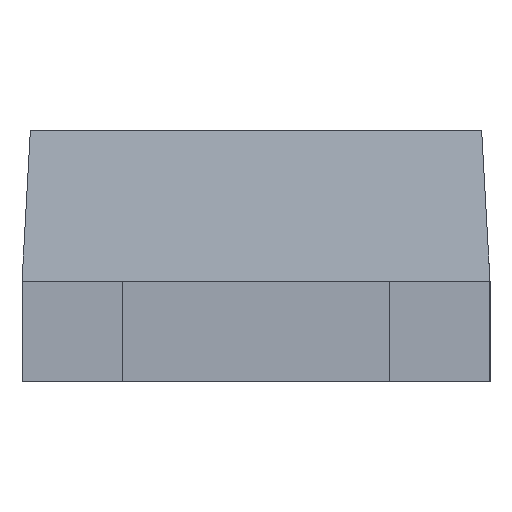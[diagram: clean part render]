
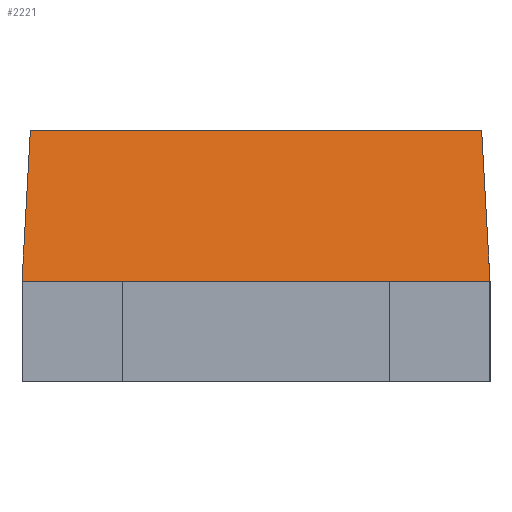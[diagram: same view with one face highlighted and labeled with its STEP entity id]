
A CAD part, left-side view. The second image highlights one B-rep face of the part: STEP entity #2221.
In plain terms, the highlighted planar face has unit normal (-0.986, 0, 0.164).
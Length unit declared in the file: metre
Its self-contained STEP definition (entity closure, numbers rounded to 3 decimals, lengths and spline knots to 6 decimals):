
#359=ORIENTED_EDGE('',*,*,#947,.T.);
#360=ORIENTED_EDGE('',*,*,#949,.F.);
#361=ORIENTED_EDGE('',*,*,#939,.F.);
#362=ORIENTED_EDGE('',*,*,#927,.T.);
#363=ORIENTED_EDGE('',*,*,#950,.T.);
#364=ORIENTED_EDGE('',*,*,#929,.T.);
#927=EDGE_CURVE('',#1237,#1236,#1450,.T.);
#929=EDGE_CURVE('',#1238,#1197,#1452,.T.);
#939=EDGE_CURVE('',#1237,#1243,#1462,.T.);
#947=EDGE_CURVE('',#1197,#1249,#1470,.T.);
#949=EDGE_CURVE('',#1243,#1249,#1472,.T.);
#950=EDGE_CURVE('',#1236,#1238,#1473,.T.);
#1197=VERTEX_POINT('',#3035);
#1236=VERTEX_POINT('',#3133);
#1237=VERTEX_POINT('',#3135);
#1238=VERTEX_POINT('',#3139);
#1243=VERTEX_POINT('',#3156);
#1249=VERTEX_POINT('',#3173);
#1450=LINE('',#3134,#1687);
#1452=LINE('',#3138,#1689);
#1462=LINE('',#3158,#1699);
#1470=LINE('',#3174,#1707);
#1472=LINE('',#3177,#1709);
#1473=LINE('',#3178,#1710);
#1687=VECTOR('',#2600,1.);
#1689=VECTOR('',#2604,1.);
#1699=VECTOR('',#2622,1.);
#1707=VECTOR('',#2634,1.);
#1709=VECTOR('',#2638,1.);
#1710=VECTOR('',#2639,1.);
#1869=EDGE_LOOP('',(#359,#360,#361,#362,#363,#364));
#2002=FACE_BOUND('',#1869,.T.);
#2132=PLANE('',#2399);
#2221=ADVANCED_FACE('',(#2002),#2132,.T.);
#2399=AXIS2_PLACEMENT_3D('',#3176,#2636,#2637);
#2600=DIRECTION('',(0.,-1.,0.));
#2604=DIRECTION('',(0.,-1.,0.));
#2622=DIRECTION('',(0.164,-0.055,0.985));
#2634=DIRECTION('',(0.164,0.055,0.985));
#2636=DIRECTION('',(-0.986,0.,0.164));
#2637=DIRECTION('',(0.164,0.,0.986));
#2638=DIRECTION('',(0.,-1.,0.));
#2639=DIRECTION('',(0.,-1.,0.));
#3035=CARTESIAN_POINT('',(-0.0014,-0.0007,0.0003));
#3133=CARTESIAN_POINT('',(-0.0014,0.0004,0.0003));
#3134=CARTESIAN_POINT('',(-0.0014,0.00055,0.0003));
#3135=CARTESIAN_POINT('',(-0.0014,0.0007,0.0003));
#3138=CARTESIAN_POINT('',(-0.0014,-0.00055,0.0003));
#3139=CARTESIAN_POINT('',(-0.0014,-0.0004,0.0003));
#3156=CARTESIAN_POINT('',(-0.001325,0.000675,0.00075));
#3158=CARTESIAN_POINT('',(-0.0014,0.0007,0.0003));
#3173=CARTESIAN_POINT('',(-0.001325,-0.000675,0.00075));
#3174=CARTESIAN_POINT('',(-0.0014,-0.0007,0.0003));
#3176=CARTESIAN_POINT('',(-0.001411,0.,0.000235));
#3177=CARTESIAN_POINT('',(-0.001325,0.,0.00075));
#3178=CARTESIAN_POINT('',(-0.0014,0.00055,0.0003));
